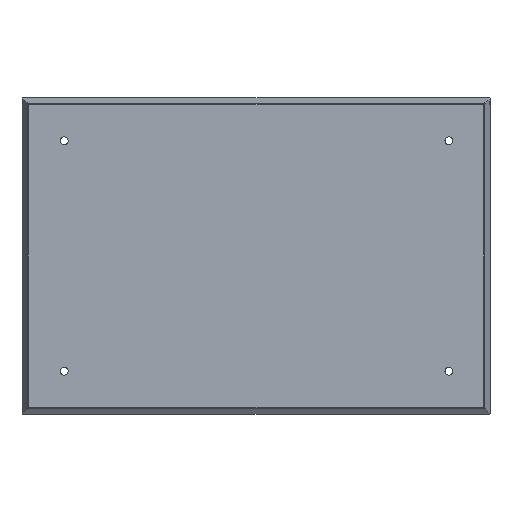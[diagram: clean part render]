
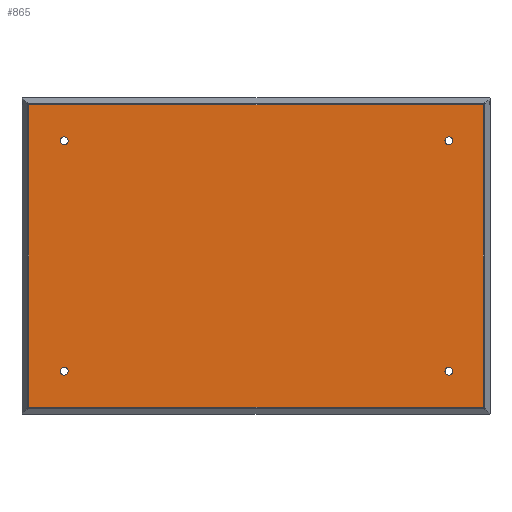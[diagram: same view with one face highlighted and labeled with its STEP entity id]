
A CAD part, front view. The second image highlights one B-rep face of the part: STEP entity #865.
In plain terms, the highlighted planar face has unit normal (0, -1, 0).
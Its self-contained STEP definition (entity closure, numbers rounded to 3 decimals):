
#20 = CARTESIAN_POINT ( 'NONE',  ( -442.324, 0., 294.324 ) ) ;
#25 = CARTESIAN_POINT ( 'NONE',  ( 444., 0., -294.324 ) ) ;
#27 = EDGE_CURVE ( 'NONE', #512, #136, #1877, .T. ) ;
#44 = VERTEX_POINT ( 'NONE', #1847 ) ;
#45 = AXIS2_PLACEMENT_3D ( 'NONE', #397, #89, #1556 ) ;
#66 = CIRCLE ( 'NONE', #1864, 7.5 ) ;
#79 = CARTESIAN_POINT ( 'NONE',  ( -373.43, 0., -224.53 ) ) ;
#89 = DIRECTION ( 'NONE',  ( 0., 1., 0. ) ) ;
#136 = VERTEX_POINT ( 'NONE', #1210 ) ;
#138 = CARTESIAN_POINT ( 'NONE',  ( 375.57, 0., -232.03 ) ) ;
#142 = EDGE_CURVE ( 'NONE', #211, #546, #66, .T. ) ;
#143 = PLANE ( 'NONE',  #838 ) ;
#180 = EDGE_CURVE ( 'NONE', #621, #468, #1603, .T. ) ;
#196 = EDGE_CURVE ( 'NONE', #136, #512, #294, .T. ) ;
#211 = VERTEX_POINT ( 'NONE', #1461 ) ;
#221 = ORIENTED_EDGE ( 'NONE', *, *, #939, .T. ) ;
#244 = DIRECTION ( 'NONE',  ( 0., 0., 1. ) ) ;
#251 = CARTESIAN_POINT ( 'NONE',  ( 375.57, 0., -224.53 ) ) ;
#294 = CIRCLE ( 'NONE', #448, 7.5 ) ;
#297 = CARTESIAN_POINT ( 'NONE',  ( -373.43, 0., 224.53 ) ) ;
#302 = ORIENTED_EDGE ( 'NONE', *, *, #142, .F. ) ;
#323 = ORIENTED_EDGE ( 'NONE', *, *, #453, .T. ) ;
#334 = AXIS2_PLACEMENT_3D ( 'NONE', #251, #381, #1279 ) ;
#337 = LINE ( 'NONE', #25, #1317 ) ;
#344 = VERTEX_POINT ( 'NONE', #1065 ) ;
#348 = ORIENTED_EDGE ( 'NONE', *, *, #1863, .T. ) ;
#350 = DIRECTION ( 'NONE',  ( 0., -1., 0. ) ) ;
#381 = DIRECTION ( 'NONE',  ( 0., 1., 0. ) ) ;
#382 = EDGE_LOOP ( 'NONE', ( #348, #221 ) ) ;
#384 = DIRECTION ( 'NONE',  ( 0., 1., 0. ) ) ;
#396 = CARTESIAN_POINT ( 'NONE',  ( 375.57, 0., 224.53 ) ) ;
#397 = CARTESIAN_POINT ( 'NONE',  ( 375.57, 0., -224.53 ) ) ;
#422 = FACE_BOUND ( 'NONE', #382, .T. ) ;
#441 = DIRECTION ( 'NONE',  ( -1., 0., 0. ) ) ;
#442 = FACE_OUTER_BOUND ( 'NONE', #1825, .T. ) ;
#448 = AXIS2_PLACEMENT_3D ( 'NONE', #297, #889, #1624 ) ;
#453 = EDGE_CURVE ( 'NONE', #468, #44, #760, .T. ) ;
#462 = DIRECTION ( 'NONE',  ( 0., -1., 0. ) ) ;
#468 = VERTEX_POINT ( 'NONE', #20 ) ;
#480 = VERTEX_POINT ( 'NONE', #1753 ) ;
#491 = ORIENTED_EDGE ( 'NONE', *, *, #180, .T. ) ;
#512 = VERTEX_POINT ( 'NONE', #1498 ) ;
#546 = VERTEX_POINT ( 'NONE', #589 ) ;
#589 = CARTESIAN_POINT ( 'NONE',  ( 375.57, 0., 217.03 ) ) ;
#610 = CARTESIAN_POINT ( 'NONE',  ( 375.57, 0., 224.53 ) ) ;
#621 = VERTEX_POINT ( 'NONE', #718 ) ;
#635 = CARTESIAN_POINT ( 'NONE',  ( -373.43, 0., -217.03 ) ) ;
#641 = VECTOR ( 'NONE', #1491, 1000. ) ;
#660 = AXIS2_PLACEMENT_3D ( 'NONE', #79, #1219, #938 ) ;
#681 = CIRCLE ( 'NONE', #45, 7.5 ) ;
#688 = ORIENTED_EDGE ( 'NONE', *, *, #1796, .F. ) ;
#700 = EDGE_CURVE ( 'NONE', #1223, #480, #761, .T. ) ;
#704 = ORIENTED_EDGE ( 'NONE', *, *, #700, .T. ) ;
#715 = CARTESIAN_POINT ( 'NONE',  ( 0., 0., 0. ) ) ;
#718 = CARTESIAN_POINT ( 'NONE',  ( 442.324, 0., 294.324 ) ) ;
#760 = LINE ( 'NONE', #1322, #1247 ) ;
#761 = CIRCLE ( 'NONE', #334, 7.5 ) ;
#775 = AXIS2_PLACEMENT_3D ( 'NONE', #1264, #384, #1673 ) ;
#784 = EDGE_LOOP ( 'NONE', ( #688, #302 ) ) ;
#787 = CARTESIAN_POINT ( 'NONE',  ( 442.324, 0., -294.324 ) ) ;
#798 = DIRECTION ( 'NONE',  ( 0., 0., -1. ) ) ;
#806 = DIRECTION ( 'NONE',  ( 0., -1., 0. ) ) ;
#838 = AXIS2_PLACEMENT_3D ( 'NONE', #715, #350, #798 ) ;
#865 = ADVANCED_FACE ( 'NONE', ( #442, #1453, #1031, #422, #1010 ), #143, .T. ) ;
#871 = CIRCLE ( 'NONE', #1604, 7.5 ) ;
#889 = DIRECTION ( 'NONE',  ( 0., -1., 0. ) ) ;
#905 = CIRCLE ( 'NONE', #660, 7.5 ) ;
#922 = VERTEX_POINT ( 'NONE', #787 ) ;
#938 = DIRECTION ( 'NONE',  ( 0., 0., -1. ) ) ;
#939 = EDGE_CURVE ( 'NONE', #344, #1667, #905, .T. ) ;
#950 = VECTOR ( 'NONE', #441, 1000. ) ;
#997 = ORIENTED_EDGE ( 'NONE', *, *, #1071, .T. ) ;
#1010 = FACE_BOUND ( 'NONE', #784, .T. ) ;
#1031 = FACE_BOUND ( 'NONE', #1506, .T. ) ;
#1038 = CARTESIAN_POINT ( 'NONE',  ( 442.324, 0., 0. ) ) ;
#1053 = DIRECTION ( 'NONE',  ( 0., 0., 1. ) ) ;
#1065 = CARTESIAN_POINT ( 'NONE',  ( -373.43, 0., -232.03 ) ) ;
#1071 = EDGE_CURVE ( 'NONE', #480, #1223, #681, .T. ) ;
#1119 = CARTESIAN_POINT ( 'NONE',  ( -373.43, 0., 224.53 ) ) ;
#1171 = AXIS2_PLACEMENT_3D ( 'NONE', #1119, #1394, #244 ) ;
#1187 = DIRECTION ( 'NONE',  ( 1., 0., 0. ) ) ;
#1210 = CARTESIAN_POINT ( 'NONE',  ( -373.43, 0., 217.03 ) ) ;
#1219 = DIRECTION ( 'NONE',  ( 0., 1., 0. ) ) ;
#1223 = VERTEX_POINT ( 'NONE', #138 ) ;
#1247 = VECTOR ( 'NONE', #1840, 1000. ) ;
#1249 = DIRECTION ( 'NONE',  ( 0., 0., 1. ) ) ;
#1264 = CARTESIAN_POINT ( 'NONE',  ( -373.43, 0., -224.53 ) ) ;
#1279 = DIRECTION ( 'NONE',  ( 0., 0., -1. ) ) ;
#1317 = VECTOR ( 'NONE', #1187, 1000. ) ;
#1320 = CARTESIAN_POINT ( 'NONE',  ( -444., 0., 294.324 ) ) ;
#1322 = CARTESIAN_POINT ( 'NONE',  ( -442.324, 0., 0. ) ) ;
#1334 = ORIENTED_EDGE ( 'NONE', *, *, #1601, .T. ) ;
#1340 = LINE ( 'NONE', #1038, #641 ) ;
#1394 = DIRECTION ( 'NONE',  ( 0., -1., 0. ) ) ;
#1453 = FACE_BOUND ( 'NONE', #1714, .T. ) ;
#1461 = CARTESIAN_POINT ( 'NONE',  ( 375.57, 0., 232.03 ) ) ;
#1491 = DIRECTION ( 'NONE',  ( 0., 0., 1. ) ) ;
#1498 = CARTESIAN_POINT ( 'NONE',  ( -373.43, 0., 232.03 ) ) ;
#1501 = EDGE_CURVE ( 'NONE', #922, #621, #1340, .T. ) ;
#1506 = EDGE_LOOP ( 'NONE', ( #997, #704 ) ) ;
#1556 = DIRECTION ( 'NONE',  ( 0., 0., -1. ) ) ;
#1601 = EDGE_CURVE ( 'NONE', #44, #922, #337, .T. ) ;
#1603 = LINE ( 'NONE', #1320, #950 ) ;
#1604 = AXIS2_PLACEMENT_3D ( 'NONE', #396, #806, #1249 ) ;
#1624 = DIRECTION ( 'NONE',  ( 0., 0., 1. ) ) ;
#1667 = VERTEX_POINT ( 'NONE', #635 ) ;
#1673 = DIRECTION ( 'NONE',  ( 0., 0., -1. ) ) ;
#1681 = ORIENTED_EDGE ( 'NONE', *, *, #27, .F. ) ;
#1714 = EDGE_LOOP ( 'NONE', ( #1817, #1681 ) ) ;
#1724 = ORIENTED_EDGE ( 'NONE', *, *, #1501, .T. ) ;
#1753 = CARTESIAN_POINT ( 'NONE',  ( 375.57, 0., -217.03 ) ) ;
#1796 = EDGE_CURVE ( 'NONE', #546, #211, #871, .T. ) ;
#1817 = ORIENTED_EDGE ( 'NONE', *, *, #196, .F. ) ;
#1825 = EDGE_LOOP ( 'NONE', ( #1334, #1724, #491, #323 ) ) ;
#1840 = DIRECTION ( 'NONE',  ( 0., 0., -1. ) ) ;
#1847 = CARTESIAN_POINT ( 'NONE',  ( -442.324, 0., -294.324 ) ) ;
#1854 = CIRCLE ( 'NONE', #775, 7.5 ) ;
#1863 = EDGE_CURVE ( 'NONE', #1667, #344, #1854, .T. ) ;
#1864 = AXIS2_PLACEMENT_3D ( 'NONE', #610, #462, #1053 ) ;
#1877 = CIRCLE ( 'NONE', #1171, 7.5 ) ;
